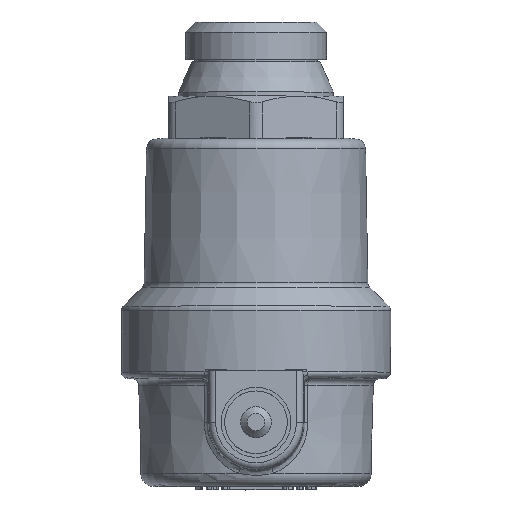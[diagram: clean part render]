
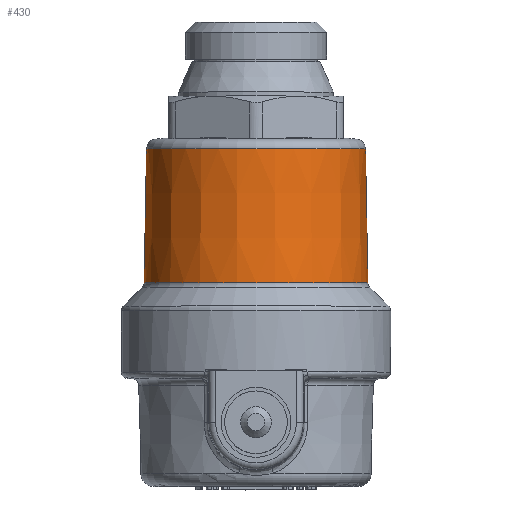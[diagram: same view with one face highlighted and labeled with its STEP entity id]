
A CAD part, top view. The second image highlights one B-rep face of the part: STEP entity #430.
In plain terms, the highlighted conical face has half-angle 1 degrees and reference radius 16.447 mm.
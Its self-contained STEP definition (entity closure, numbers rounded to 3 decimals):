
#430=ADVANCED_FACE('',(#3038,#3040),#3042,.T.);
#3038=FACE_OUTER_BOUND('',#3039,.T.);
#3039=EDGE_LOOP('',(#5282));
#3040=FACE_OUTER_BOUND('',#3041,.T.);
#3041=EDGE_LOOP('',(#5283));
#3042=CONICAL_SURFACE('',#3043,16.447,0.017);
#3043=AXIS2_PLACEMENT_3D('',#3044,#3045,#3046);
#3044=CARTESIAN_POINT('',(0.,24.213,0.));
#3045=DIRECTION('',(0.,-1.,0.));
#3046=DIRECTION('',(1.,0.,0.));
#5282=ORIENTED_EDGE('',*,*,#6183,.F.);
#5283=ORIENTED_EDGE('',*,*,#6173,.T.);
#6173=EDGE_CURVE('',#7455,#7455,#7456,.T.);
#6183=EDGE_CURVE('',#7475,#7475,#7476,.T.);
#7455=VERTEX_POINT('',#10621);
#7456=CIRCLE('',#10622,16.62);
#7475=VERTEX_POINT('',#10667);
#7476=CIRCLE('',#10668,16.274);
#10621=CARTESIAN_POINT('',(-16.62,14.276,0.));
#10622=AXIS2_PLACEMENT_3D('',#10623,#10624,#10625);
#10623=CARTESIAN_POINT('',(0.,14.276,0.));
#10624=DIRECTION('',(0.,1.,0.));
#10625=DIRECTION('',(-1.,0.,0.));
#10667=CARTESIAN_POINT('',(-16.274,34.15,0.));
#10668=AXIS2_PLACEMENT_3D('',#10669,#10670,#10671);
#10669=CARTESIAN_POINT('',(0.,34.15,0.));
#10670=DIRECTION('',(0.,1.,0.));
#10671=DIRECTION('',(-1.,0.,0.));
